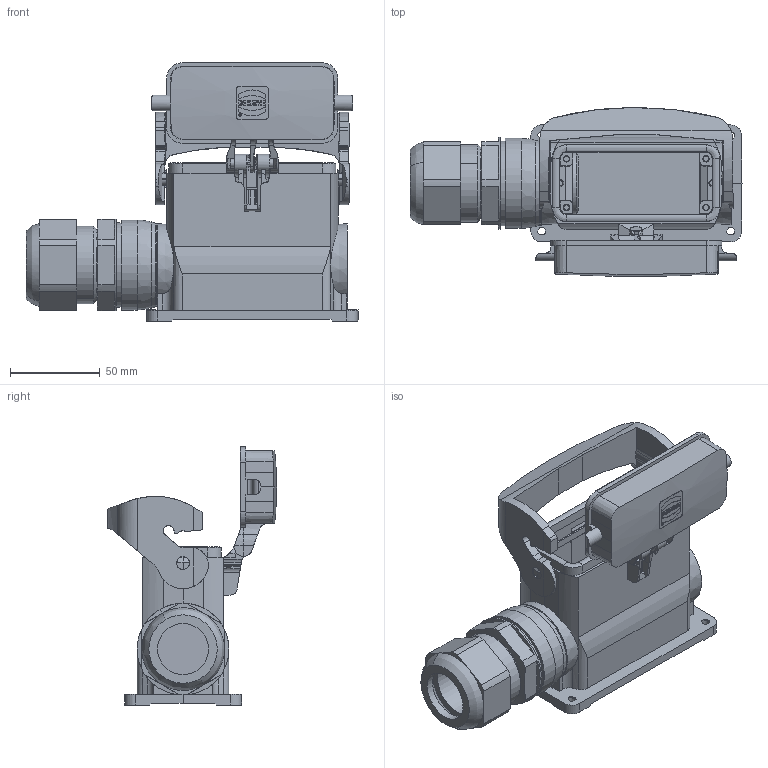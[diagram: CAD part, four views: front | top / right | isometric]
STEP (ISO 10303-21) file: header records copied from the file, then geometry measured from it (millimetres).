
FILE_DESCRIPTION(/* description */ (''),/* implementation_level */ '2;1');
FILE_NAME(/* name */ '100751770ugm000_d.stp',/* time_stamp */ '2022-07-06T14:44:56+02:00',/* author */ (''),/* organization */ (''),/* preprocessor_version */ 'ST-DEVELOPER v16.7',/* originating_system */ 'SIEMENS PLM Software NX 1911',/* authorisation */ '');
FILE_SCHEMA (('AUTOMOTIVE_DESIGN { 1 0 10303 214 3 1 1 1 }'));
Length unit declared in the file: millimetre
Products named in the file (1): 100751770ugm000_d
Bounding box: 184.45 x 93.92 x 143.5 mm (x, y, z)
Volume: 298935.7 mm3; surface area: 120858.7 mm2
Topology: 3 solids, 3 shells, 907 faces, 2514 edges, 1641 vertices
Faces by surface type: plane 579, cylinder 216, cone 68, bspline 19, torus 10, revolution 8, extrusion 7
Full cylindrical faces by diameter (mm): 1.006 x1, 1.477 x1, 3 x4, 3.5 x4, 4.8 x2, 7.2 x2, 30 x1, 40 x1, 46.4 x1, 47 x1, 49.95 x1
Entity records: 32618 total; most frequent: CARTESIAN_POINT 8181, ORIENTED_EDGE 4940, DIRECTION 4669, EDGE_CURVE 2470, VERTEX_POINT 1629, VECTOR 1613, LINE 1606, AXIS2_PLACEMENT_3D 1524
